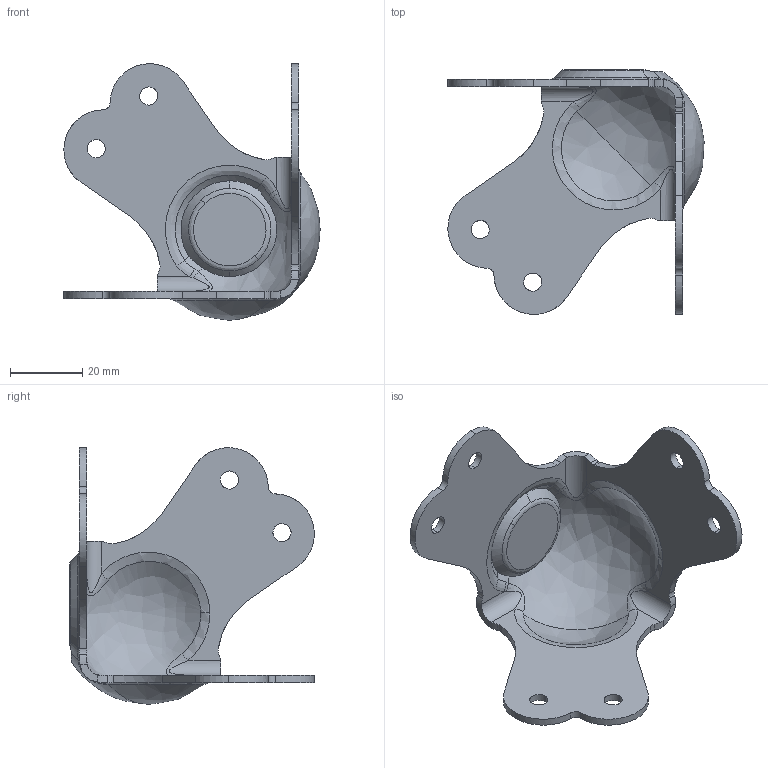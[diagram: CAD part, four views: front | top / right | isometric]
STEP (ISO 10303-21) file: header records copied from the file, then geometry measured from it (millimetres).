
FILE_DESCRIPTION (( 'STEP AP214' ), '1' );
FILE_NAME ('Penn Elcom-10129f.STEP', '2019-08-20T13:07:31', ( '' ), ( '' ), 'SwSTEP 2.0', 'SolidWorks 2019', '' );
FILE_SCHEMA (( 'AUTOMOTIVE_DESIGN' ));
Length unit declared in the file: millimetre
Products named in the file (1): Penn Elcom-10129f
Bounding box: 70.72 x 67.5 x 70.8 mm (x, y, z)
Volume: 15260.7 mm3; surface area: 16271.9 mm2
Topology: 1 solids, 1 shells, 115 faces, 320 edges, 207 vertices
Faces by surface type: cylinder 48, bspline 43, plane 18, cone 6
Entity records: 7656 total; most frequent: CARTESIAN_POINT 5056, ORIENTED_EDGE 640, DIRECTION 413, EDGE_CURVE 320, VERTEX_POINT 207, AXIS2_PLACEMENT_3D 169, EDGE_LOOP 127, B_SPLINE_CURVE_WITH_KNOTS 122
